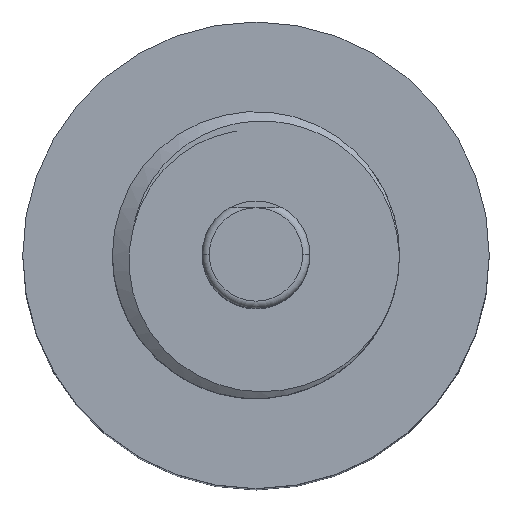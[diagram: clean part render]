
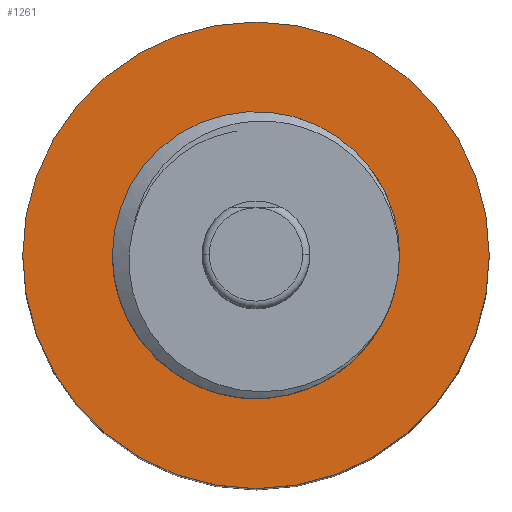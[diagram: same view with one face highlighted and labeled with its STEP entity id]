
A CAD part, top view. The second image highlights one B-rep face of the part: STEP entity #1261.
In plain terms, the highlighted planar face has unit normal (0, 0, 1).
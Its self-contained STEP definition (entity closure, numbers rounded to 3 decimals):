
#73 = VERTEX_POINT ( 'NONE', #381 ) ;
#76 = DIRECTION ( 'NONE',  ( -1., 0., 0. ) ) ;
#103 = ORIENTED_EDGE ( 'NONE', *, *, #1179, .F. ) ;
#112 = DIRECTION ( 'NONE',  ( 0., 0., -1. ) ) ;
#140 = DIRECTION ( 'NONE',  ( 0., 0., -1. ) ) ;
#188 = CARTESIAN_POINT ( 'NONE',  ( 6.5, 0., -13.9 ) ) ;
#200 = VERTEX_POINT ( 'NONE', #323 ) ;
#204 = AXIS2_PLACEMENT_3D ( 'NONE', #990, #777, #975 ) ;
#240 = EDGE_CURVE ( 'NONE', #1267, #200, #1479, .T. ) ;
#290 = AXIS2_PLACEMENT_3D ( 'NONE', #340, #112, #1629 ) ;
#315 = CARTESIAN_POINT ( 'NONE',  ( 0., -3.333, -13.9 ) ) ;
#323 = CARTESIAN_POINT ( 'NONE',  ( 3.333, 0., -13.9 ) ) ;
#340 = CARTESIAN_POINT ( 'NONE',  ( 0., 0., -13.9 ) ) ;
#351 = EDGE_CURVE ( 'NONE', #380, #73, #419, .T. ) ;
#380 = VERTEX_POINT ( 'NONE', #188 ) ;
#381 = CARTESIAN_POINT ( 'NONE',  ( -6.5, 0., -13.9 ) ) ;
#389 = DIRECTION ( 'NONE',  ( -1., 0., 0. ) ) ;
#414 = FACE_BOUND ( 'NONE', #960, .T. ) ;
#419 = CIRCLE ( 'NONE', #816, 6.5 ) ;
#558 = ORIENTED_EDGE ( 'NONE', *, *, #240, .T. ) ;
#600 = DIRECTION ( 'NONE',  ( 0., 0., -1. ) ) ;
#709 = CARTESIAN_POINT ( 'NONE',  ( 0., 0., -13.9 ) ) ;
#777 = DIRECTION ( 'NONE',  ( 0., 0., -1. ) ) ;
#816 = AXIS2_PLACEMENT_3D ( 'NONE', #709, #600, #76 ) ;
#867 = PLANE ( 'NONE',  #1185 ) ;
#960 = EDGE_LOOP ( 'NONE', ( #558, #1577 ) ) ;
#975 = DIRECTION ( 'NONE',  ( -1., 0., 0. ) ) ;
#990 = CARTESIAN_POINT ( 'NONE',  ( 0., 0., -13.9 ) ) ;
#1025 = CIRCLE ( 'NONE', #1074, 6.5 ) ;
#1035 = CARTESIAN_POINT ( 'NONE',  ( 0., 0., -13.9 ) ) ;
#1074 = AXIS2_PLACEMENT_3D ( 'NONE', #1035, #140, #389 ) ;
#1081 = CARTESIAN_POINT ( 'NONE',  ( -3.333, 0., -13.9 ) ) ;
#1179 = EDGE_CURVE ( 'NONE', #73, #380, #1025, .T. ) ;
#1185 = AXIS2_PLACEMENT_3D ( 'NONE', #315, #1240, #1627 ) ;
#1211 = EDGE_CURVE ( 'NONE', #200, #1267, #1437, .T. ) ;
#1217 = FACE_OUTER_BOUND ( 'NONE', #1251, .T. ) ;
#1240 = DIRECTION ( 'NONE',  ( 0., 0., -1. ) ) ;
#1251 = EDGE_LOOP ( 'NONE', ( #103, #1459 ) ) ;
#1261 = ADVANCED_FACE ( 'NONE', ( #1217, #414 ), #867, .F. ) ;
#1267 = VERTEX_POINT ( 'NONE', #1081 ) ;
#1437 = CIRCLE ( 'NONE', #204, 3.333 ) ;
#1459 = ORIENTED_EDGE ( 'NONE', *, *, #351, .F. ) ;
#1479 = CIRCLE ( 'NONE', #290, 3.333 ) ;
#1577 = ORIENTED_EDGE ( 'NONE', *, *, #1211, .T. ) ;
#1627 = DIRECTION ( 'NONE',  ( -1., 0., 0. ) ) ;
#1629 = DIRECTION ( 'NONE',  ( -1., 0., 0. ) ) ;
